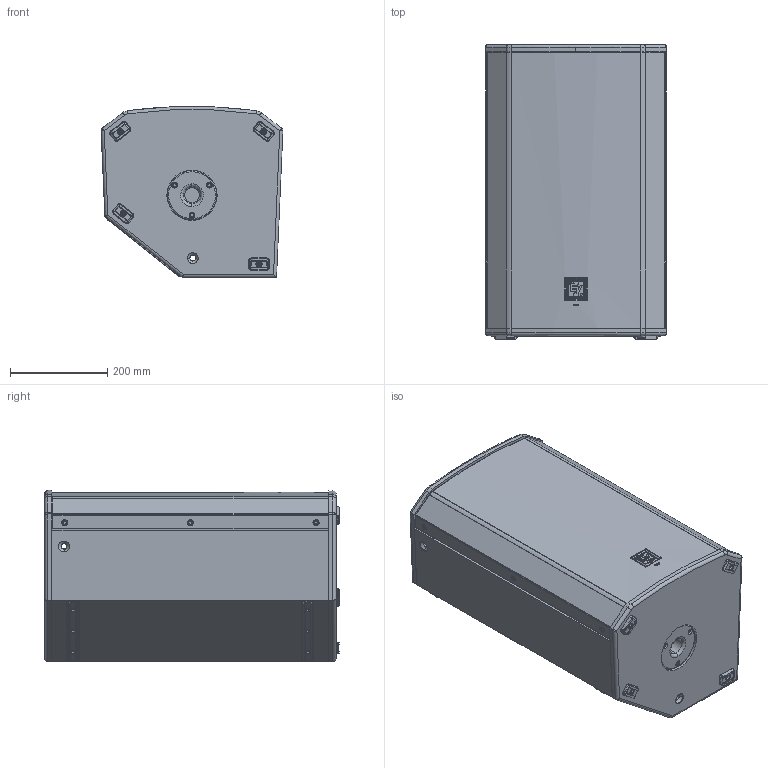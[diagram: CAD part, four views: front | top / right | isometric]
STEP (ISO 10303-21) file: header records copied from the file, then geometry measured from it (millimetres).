
FILE_DESCRIPTION (( 'STEP AP214' ), '1' );
FILE_NAME ('F01U303364 simplified.STEP', '2015-04-17T19:42:27', ( '' ), ( '' ), 'SwSTEP 2.0', 'SolidWorks 2014', '' );
FILE_SCHEMA (( 'AUTOMOTIVE_DESIGN' ));
Length unit declared in the file: millimetre
Products named in the file (16): F01U303364 simplified; F01U304173 BOTTOM PANEL; F01U304173 RIGHT SIDE; F01U304173 REAR PANEL; F01U304173 MONITOR PANEL; F01U304173 LEFT SIDE; F01U304173 TOP PANEL; F01U304173; F01U302493; F01U306176_FORMED WITH LOGO; F01U273562; F01U167117_96415A125; F01U306440; F01U200391; F01U270364; F01U275133
Assembly tree (20 placements, depth 3):
  F01U303364 simplified
    F01U304173
      F01U304173 BOTTOM PANEL
      F01U304173 RIGHT SIDE
      F01U304173 REAR PANEL
      F01U304173 MONITOR PANEL
      F01U304173 LEFT SIDE
      F01U304173 TOP PANEL
    F01U302493
    F01U306440
      F01U306176_FORMED WITH LOGO
      F01U273562
      F01U167117_96415A125  x2
    F01U200391
    F01U270364  x4
    F01U275133  x2
Bounding box: 374.52 x 606.82 x 352.55 mm (x, y, z)
Volume: 10350953.7 mm3; surface area: 2284948.1 mm2
Topology: 28 solids, 28 shells, 2793 faces, 7082 edges, 4476 vertices
Faces by surface type: plane 1122, bspline 891, cylinder 602, cone 178
Entity records: 94917 total; most frequent: CARTESIAN_POINT 38467, ORIENTED_EDGE 8444, DIRECTION 6685, EDGE_CURVE 4222, VERTEX_POINT 2656, AXIS2_PLACEMENT_3D 2327, VECTOR 2031, LINE 2031
